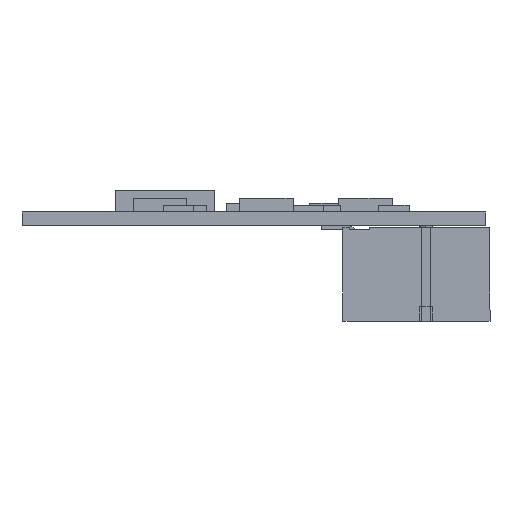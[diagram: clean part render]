
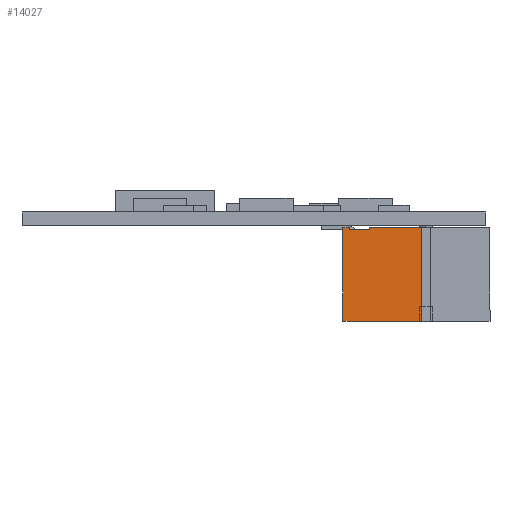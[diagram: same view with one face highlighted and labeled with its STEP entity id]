
A CAD part, left-side view. The second image highlights one B-rep face of the part: STEP entity #14027.
In plain terms, the highlighted planar face has unit normal (-1, 0, 0).
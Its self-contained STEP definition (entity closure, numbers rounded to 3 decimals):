
#20 = LINE ( 'NONE', #14315, #16284 ) ;
#73 = LINE ( 'NONE', #5365, #8202 ) ;
#88 = DIRECTION ( 'NONE',  ( 0., -1., 0. ) ) ;
#280 = CARTESIAN_POINT ( 'NONE',  ( 72.92, 17.58, -11.785 ) ) ;
#286 = CARTESIAN_POINT ( 'NONE',  ( 72.92, 17.58, -11.785 ) ) ;
#783 = EDGE_CURVE ( 'NONE', #5611, #13473, #2740, .T. ) ;
#835 = VECTOR ( 'NONE', #6926, 1000. ) ;
#1478 = LINE ( 'NONE', #12540, #6680 ) ;
#1542 = EDGE_CURVE ( 'NONE', #16367, #2158, #73, .T. ) ;
#1886 = ORIENTED_EDGE ( 'NONE', *, *, #3249, .F. ) ;
#1967 = CARTESIAN_POINT ( 'NONE',  ( 72.92, 17.58, -0.285 ) ) ;
#2144 = VECTOR ( 'NONE', #12066, 1000. ) ;
#2158 = VERTEX_POINT ( 'NONE', #15030 ) ;
#2215 = LINE ( 'NONE', #18583, #835 ) ;
#2428 = EDGE_CURVE ( 'NONE', #4186, #3949, #20, .T. ) ;
#2485 = ORIENTED_EDGE ( 'NONE', *, *, #12638, .F. ) ;
#2734 = CARTESIAN_POINT ( 'NONE',  ( 72.92, 16.83, -0.535 ) ) ;
#2740 = LINE ( 'NONE', #280, #17580 ) ;
#2819 = DIRECTION ( 'NONE',  ( -1., 0., 0. ) ) ;
#2876 = CARTESIAN_POINT ( 'NONE',  ( 72.92, 16.83, -0.535 ) ) ;
#3249 = EDGE_CURVE ( 'NONE', #3949, #13473, #2215, .T. ) ;
#3936 = ORIENTED_EDGE ( 'NONE', *, *, #10456, .T. ) ;
#3949 = VERTEX_POINT ( 'NONE', #6496 ) ;
#4109 = CARTESIAN_POINT ( 'NONE',  ( 72.92, 7.86, -11.785 ) ) ;
#4186 = VERTEX_POINT ( 'NONE', #11974 ) ;
#5365 = CARTESIAN_POINT ( 'NONE',  ( 72.92, 14.33, -0.285 ) ) ;
#5389 = VECTOR ( 'NONE', #15721, 1000. ) ;
#5394 = ORIENTED_EDGE ( 'NONE', *, *, #783, .T. ) ;
#5424 = DIRECTION ( 'NONE',  ( 0., -1., 0. ) ) ;
#5611 = VERTEX_POINT ( 'NONE', #286 ) ;
#5655 = CARTESIAN_POINT ( 'NONE',  ( 72.92, 17.58, -0.285 ) ) ;
#6149 = CARTESIAN_POINT ( 'NONE',  ( 72.92, 14.33, -0.285 ) ) ;
#6496 = CARTESIAN_POINT ( 'NONE',  ( 72.92, 7.86, -0.285 ) ) ;
#6521 = EDGE_CURVE ( 'NONE', #10999, #2158, #9794, .T. ) ;
#6680 = VECTOR ( 'NONE', #5424, 1000. ) ;
#6841 = DIRECTION ( 'NONE',  ( 0., -1., 0. ) ) ;
#6926 = DIRECTION ( 'NONE',  ( 0., 0., -1. ) ) ;
#7036 = CARTESIAN_POINT ( 'NONE',  ( 72.92, 17.58, -0.285 ) ) ;
#8202 = VECTOR ( 'NONE', #11377, 1000. ) ;
#8612 = DIRECTION ( 'NONE',  ( 0., -1., 0. ) ) ;
#9371 = ORIENTED_EDGE ( 'NONE', *, *, #16686, .F. ) ;
#9709 = FACE_OUTER_BOUND ( 'NONE', #15352, .T. ) ;
#9787 = CARTESIAN_POINT ( 'NONE',  ( 72.92, 16.83, -0.285 ) ) ;
#9794 = LINE ( 'NONE', #2734, #12719 ) ;
#10456 = EDGE_CURVE ( 'NONE', #14559, #5611, #13717, .T. ) ;
#10470 = ORIENTED_EDGE ( 'NONE', *, *, #1542, .T. ) ;
#10500 = VERTEX_POINT ( 'NONE', #11653 ) ;
#10998 = EDGE_CURVE ( 'NONE', #10500, #10999, #15543, .T. ) ;
#10999 = VERTEX_POINT ( 'NONE', #2876 ) ;
#11327 = DIRECTION ( 'NONE',  ( 0., 0., 1. ) ) ;
#11377 = DIRECTION ( 'NONE',  ( 0., 0., -1. ) ) ;
#11653 = CARTESIAN_POINT ( 'NONE',  ( 72.92, 16.83, -0.285 ) ) ;
#11974 = CARTESIAN_POINT ( 'NONE',  ( 72.92, 8.16, -0.285 ) ) ;
#12066 = DIRECTION ( 'NONE',  ( 0., -1., 0. ) ) ;
#12159 = VECTOR ( 'NONE', #15479, 1000. ) ;
#12540 = CARTESIAN_POINT ( 'NONE',  ( 72.92, 14.33, -0.285 ) ) ;
#12638 = EDGE_CURVE ( 'NONE', #14559, #10500, #17673, .T. ) ;
#12719 = VECTOR ( 'NONE', #6841, 1000. ) ;
#12807 = PLANE ( 'NONE',  #18264 ) ;
#13473 = VERTEX_POINT ( 'NONE', #4109 ) ;
#13717 = LINE ( 'NONE', #5655, #12159 ) ;
#14027 = ADVANCED_FACE ( 'NONE', ( #9709 ), #12807, .T. ) ;
#14315 = CARTESIAN_POINT ( 'NONE',  ( 72.92, 8.16, -0.285 ) ) ;
#14559 = VERTEX_POINT ( 'NONE', #15933 ) ;
#14880 = ORIENTED_EDGE ( 'NONE', *, *, #2428, .F. ) ;
#15030 = CARTESIAN_POINT ( 'NONE',  ( 72.92, 14.33, -0.535 ) ) ;
#15352 = EDGE_LOOP ( 'NONE', ( #9371, #10470, #16993, #17327, #2485, #3936, #5394, #1886, #14880 ) ) ;
#15479 = DIRECTION ( 'NONE',  ( 0., 0., -1. ) ) ;
#15543 = LINE ( 'NONE', #9787, #5389 ) ;
#15721 = DIRECTION ( 'NONE',  ( 0., 0., -1. ) ) ;
#15933 = CARTESIAN_POINT ( 'NONE',  ( 72.92, 17.58, -0.285 ) ) ;
#16284 = VECTOR ( 'NONE', #8612, 1000. ) ;
#16367 = VERTEX_POINT ( 'NONE', #6149 ) ;
#16686 = EDGE_CURVE ( 'NONE', #16367, #4186, #1478, .T. ) ;
#16993 = ORIENTED_EDGE ( 'NONE', *, *, #6521, .F. ) ;
#17327 = ORIENTED_EDGE ( 'NONE', *, *, #10998, .F. ) ;
#17580 = VECTOR ( 'NONE', #88, 1000. ) ;
#17673 = LINE ( 'NONE', #1967, #2144 ) ;
#18264 = AXIS2_PLACEMENT_3D ( 'NONE', #7036, #2819, #11327 ) ;
#18583 = CARTESIAN_POINT ( 'NONE',  ( 72.92, 7.86, -0.285 ) ) ;
